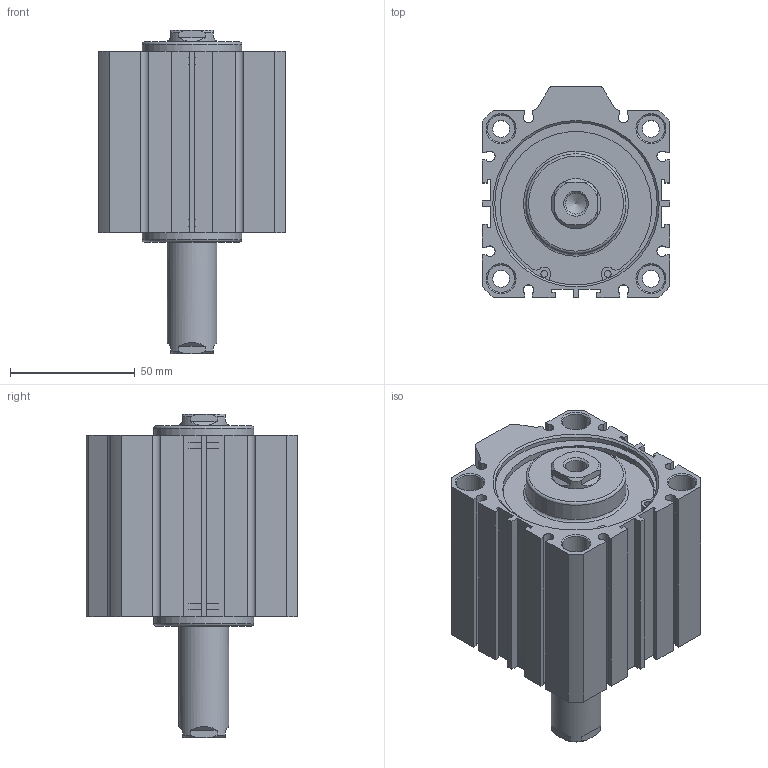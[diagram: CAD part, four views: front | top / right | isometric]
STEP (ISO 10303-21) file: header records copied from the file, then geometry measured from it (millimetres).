
FILE_DESCRIPTION((''),'2;1');
FILE_NAME('I:\3D電子目錄\氣缸\JDD\JDD\JDD63\JDD63x40.stp','2007-02-08T11:32:25',('662F206'),(''),'Autodesk Inventor 10','Autodesk Inventor 10','');
FILE_SCHEMA(('AUTOMOTIVE_DESIGN { 1 0 10303 214 1 1 1 1 }'));
Length unit declared in the file: millimetre
Products named in the file (3): JDD63; R 形環 65
Assembly tree (3 placements, depth 2):
  JDD63
    JDD63
    R 形環 65  x2
Bounding box: 75 x 84.5 x 129.5 mm (x, y, z)
Volume: 388166.6 mm3; surface area: 64494.8 mm2
Topology: 3 solids, 3 shells, 204 faces, 514 edges, 338 vertices
Faces by surface type: plane 116, cylinder 56, cone 24, bspline 6, torus 2
Full cylindrical faces by diameter (mm): 2.7 x4, 3 x2, 6.8 x4, 11 x8, 20 x2, 40 x2, 65 x4, 68 x2
Entity records: 5651 total; most frequent: CARTESIAN_POINT 1118, DIRECTION 936, ORIENTED_EDGE 848, EDGE_CURVE 424, AXIS2_PLACEMENT_3D 336, VERTEX_POINT 308, EDGE_LOOP 276, VECTOR 264
